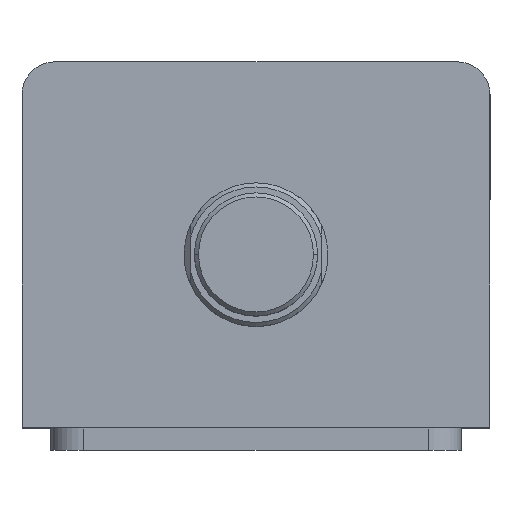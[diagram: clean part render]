
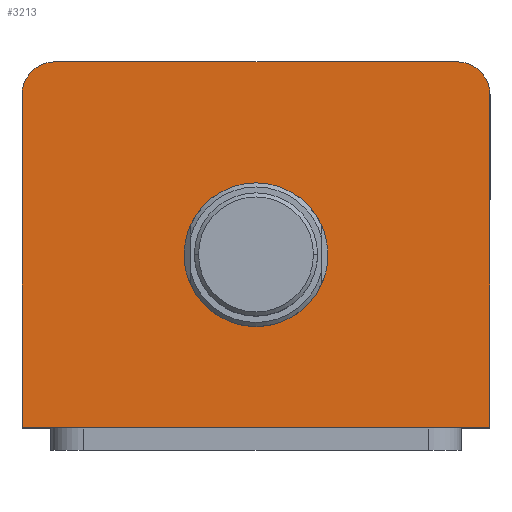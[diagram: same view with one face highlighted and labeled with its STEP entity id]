
A CAD part, top view. The second image highlights one B-rep face of the part: STEP entity #3213.
In plain terms, the highlighted planar face has unit normal (0, 0, 1).
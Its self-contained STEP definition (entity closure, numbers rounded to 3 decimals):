
#146 = EDGE_LOOP ( 'NONE', ( #1143, #1151, #3701, #1150, #3700, #1152 ) ) ;
#185 = ORIENTED_EDGE ( 'NONE', *, *, #1973, .F. ) ;
#280 = DIRECTION ( 'NONE',  ( 0., 1., 0. ) ) ;
#292 = CARTESIAN_POINT ( 'NONE',  ( 57., 44.5, 177. ) ) ;
#314 = DIRECTION ( 'NONE',  ( 1., 0., 0. ) ) ;
#315 = DIRECTION ( 'NONE',  ( 0., 0., 1. ) ) ;
#317 = CARTESIAN_POINT ( 'NONE',  ( 49., 36.5, 177. ) ) ;
#347 = DIRECTION ( 'NONE',  ( 1., 0., 0. ) ) ;
#348 = DIRECTION ( 'NONE',  ( 0., 0., 1. ) ) ;
#351 = CARTESIAN_POINT ( 'NONE',  ( -49., 36.5, 177. ) ) ;
#370 = DIRECTION ( 'NONE',  ( 0., -1., 0. ) ) ;
#397 = CARTESIAN_POINT ( 'NONE',  ( -57., 44.5, 177. ) ) ;
#457 = EDGE_LOOP ( 'NONE', ( #185, #1146 ) ) ;
#976 = VERTEX_POINT ( 'NONE', #1405 ) ;
#980 = VERTEX_POINT ( 'NONE', #1393 ) ;
#982 = VERTEX_POINT ( 'NONE', #1387 ) ;
#992 = VERTEX_POINT ( 'NONE', #1379 ) ;
#1036 = VERTEX_POINT ( 'NONE', #1504 ) ;
#1041 = VERTEX_POINT ( 'NONE', #1499 ) ;
#1065 = VERTEX_POINT ( 'NONE', #1475 ) ;
#1083 = VERTEX_POINT ( 'NONE', #1448 ) ;
#1143 = ORIENTED_EDGE ( 'NONE', *, *, #1932, .T. ) ;
#1146 = ORIENTED_EDGE ( 'NONE', *, *, #1972, .F. ) ;
#1150 = ORIENTED_EDGE ( 'NONE', *, *, #1948, .T. ) ;
#1151 = ORIENTED_EDGE ( 'NONE', *, *, #1894, .T. ) ;
#1152 = ORIENTED_EDGE ( 'NONE', *, *, #1903, .T. ) ;
#1379 = CARTESIAN_POINT ( 'NONE',  ( 57., -44.5, 177. ) ) ;
#1387 = CARTESIAN_POINT ( 'NONE',  ( -17.5, -2.5, 177. ) ) ;
#1393 = CARTESIAN_POINT ( 'NONE',  ( -57., -44.5, 177. ) ) ;
#1405 = CARTESIAN_POINT ( 'NONE',  ( 17.5, -2.5, 177. ) ) ;
#1448 = CARTESIAN_POINT ( 'NONE',  ( -57., 36.5, 177. ) ) ;
#1475 = CARTESIAN_POINT ( 'NONE',  ( 57., 36.5, 177. ) ) ;
#1499 = CARTESIAN_POINT ( 'NONE',  ( -49., 44.5, 177. ) ) ;
#1504 = CARTESIAN_POINT ( 'NONE',  ( 49., 44.5, 177. ) ) ;
#1889 = EDGE_CURVE ( 'NONE', #1083, #980, #2495, .T. ) ;
#1894 = EDGE_CURVE ( 'NONE', #1041, #1083, #2499, .T. ) ;
#1903 = EDGE_CURVE ( 'NONE', #1065, #1036, #2514, .T. ) ;
#1911 = EDGE_CURVE ( 'NONE', #992, #1065, #2524, .T. ) ;
#1932 = EDGE_CURVE ( 'NONE', #1036, #1041, #2563, .T. ) ;
#1948 = EDGE_CURVE ( 'NONE', #980, #992, #2592, .T. ) ;
#1972 = EDGE_CURVE ( 'NONE', #982, #976, #2627, .T. ) ;
#1973 = EDGE_CURVE ( 'NONE', #976, #982, #2628, .T. ) ;
#2094 = AXIS2_PLACEMENT_3D ( 'NONE', #351, #348, #347 ) ;
#2101 = AXIS2_PLACEMENT_3D ( 'NONE', #317, #315, #314 ) ;
#2124 = AXIS2_PLACEMENT_3D ( 'NONE', #3632, #3630, #3629 ) ;
#2125 = AXIS2_PLACEMENT_3D ( 'NONE', #3624, #3623, #3622 ) ;
#2221 = AXIS2_PLACEMENT_3D ( 'NONE', #3367, #3362, #3361 ) ;
#2495 = LINE ( 'NONE', #397, #2500 ) ;
#2499 = CIRCLE ( 'NONE', #2094, 8. ) ;
#2500 = VECTOR ( 'NONE', #370, 1000. ) ;
#2514 = CIRCLE ( 'NONE', #2101, 8. ) ;
#2524 = LINE ( 'NONE', #292, #2526 ) ;
#2526 = VECTOR ( 'NONE', #280, 1000. ) ;
#2563 = LINE ( 'NONE', #3648, #2566 ) ;
#2566 = VECTOR ( 'NONE', #3637, 1000. ) ;
#2592 = LINE ( 'NONE', #3572, #2594 ) ;
#2594 = VECTOR ( 'NONE', #3570, 1000. ) ;
#2627 = CIRCLE ( 'NONE', #2124, 17.5 ) ;
#2628 = CIRCLE ( 'NONE', #2125, 17.5 ) ;
#2821 = FACE_BOUND ( 'NONE', #457, .T. ) ;
#2823 = FACE_OUTER_BOUND ( 'NONE', #146, .T. ) ;
#3213 = ADVANCED_FACE ( 'NONE', ( #2821, #2823 ), #3364, .T. ) ;
#3361 = DIRECTION ( 'NONE',  ( 1., 0., 0. ) ) ;
#3362 = DIRECTION ( 'NONE',  ( 0., 0., 1. ) ) ;
#3364 = PLANE ( 'NONE',  #2221 ) ;
#3367 = CARTESIAN_POINT ( 'NONE',  ( 0., 0., 177. ) ) ;
#3570 = DIRECTION ( 'NONE',  ( 1., 0., 0. ) ) ;
#3572 = CARTESIAN_POINT ( 'NONE',  ( -57., -44.5, 177. ) ) ;
#3622 = DIRECTION ( 'NONE',  ( 1., 0., 0. ) ) ;
#3623 = DIRECTION ( 'NONE',  ( 0., 0., 1. ) ) ;
#3624 = CARTESIAN_POINT ( 'NONE',  ( 0., -2.5, 177. ) ) ;
#3629 = DIRECTION ( 'NONE',  ( 1., 0., 0. ) ) ;
#3630 = DIRECTION ( 'NONE',  ( 0., 0., 1. ) ) ;
#3632 = CARTESIAN_POINT ( 'NONE',  ( 0., -2.5, 177. ) ) ;
#3637 = DIRECTION ( 'NONE',  ( -1., 0., 0. ) ) ;
#3648 = CARTESIAN_POINT ( 'NONE',  ( -57., 44.5, 177. ) ) ;
#3700 = ORIENTED_EDGE ( 'NONE', *, *, #1911, .T. ) ;
#3701 = ORIENTED_EDGE ( 'NONE', *, *, #1889, .T. ) ;
